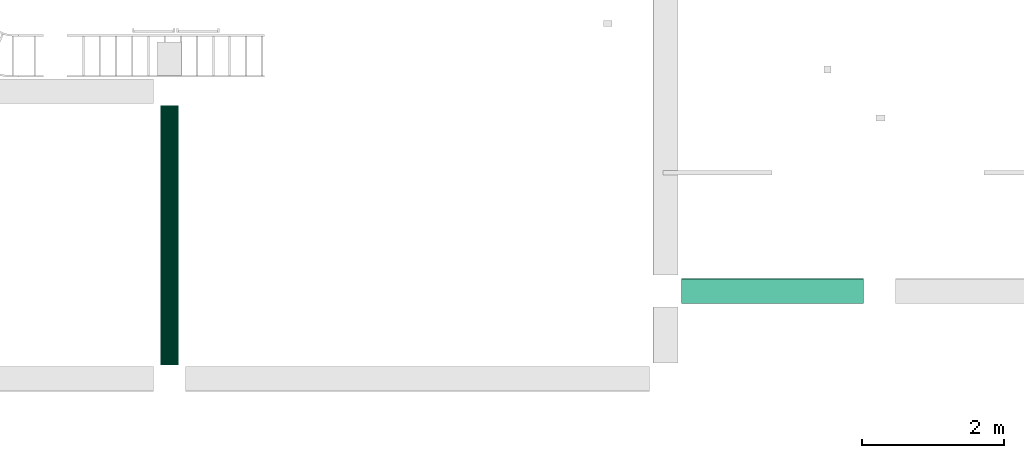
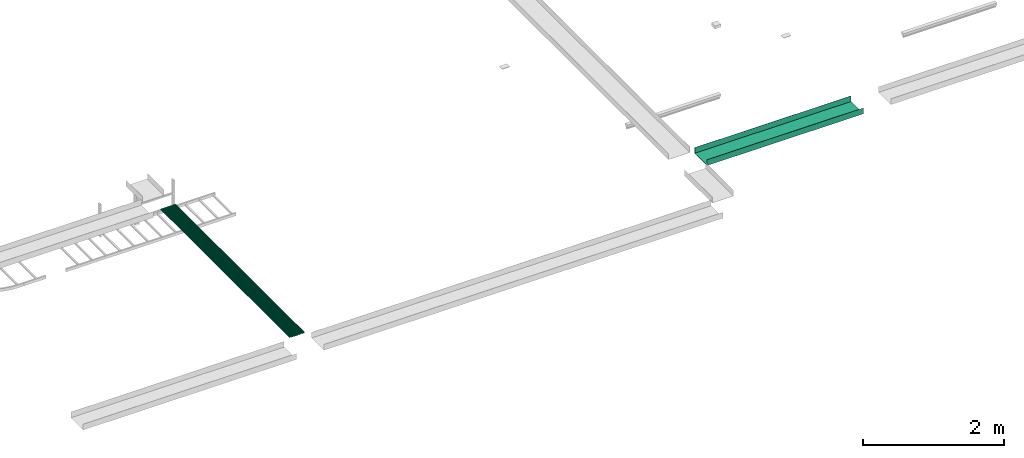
# One storey, part 1 of 14: 11 flow segments.
"""IFC2X3 building model written with IfcOpenShell, lengths in millimetres."""

from ifc_helpers import new_model, entity, si_unit, converted_unit, derived_unit, direction, frame, origin_with_axes, origin_2d_with_axis, place, context, subcontext, project, spatial, hollow_circle, extrude, open_shell, surface_model, source, transform, mapped, type_object, element, save


model = new_model("IFC2X3")

# Units and contexts
model_context = context("Model", 3, precision=0.01, world=frame((0.0, 4.29681676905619e-09, 0.0)), true_north=direction((4.01073788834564e-13, 1.0)))
plan_context = context("Plan", 3, precision=0.01, world=frame((0.0, 4.29681676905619e-09, 0.0)), true_north=direction((4.01073788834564e-13, 1.0)))
body_context = subcontext(model_context, "Body", "Model", "MODEL_VIEW")
ifc_project = project(units=[converted_unit("PLANEANGLEUNIT", "DEGREE", entity("IfcPositiveLengthMeasure", 0.0174532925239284), si_unit("PLANEANGLEUNIT", "RADIAN"), dimensions=[0, 0, 0, 0, 0, 0, 0]), si_unit("AREAUNIT", "SQUARE_METRE"), si_unit("LENGTHUNIT", "METRE", prefix="MILLI"), si_unit("MASSUNIT", "GRAM", prefix="KILO"), si_unit("POWERUNIT", "WATT"), si_unit("PRESSUREUNIT", "PASCAL", prefix="KILO"), si_unit("FORCEUNIT", "NEWTON", prefix="KILO"), si_unit("ELECTRICVOLTAGEUNIT", "VOLT"), si_unit("ELECTRICCURRENTUNIT", "AMPERE"), si_unit("THERMODYNAMICTEMPERATUREUNIT", "DEGREE_CELSIUS"), si_unit("TIMEUNIT", "SECOND"), si_unit("VOLUMEUNIT", "CUBIC_METRE"), derived_unit("LINEARVELOCITYUNIT", [(si_unit("LENGTHUNIT", "METRE"), 1), (si_unit("TIMEUNIT", "SECOND"), -1)]), derived_unit("VOLUMETRICFLOWRATEUNIT", [(si_unit("VOLUMEUNIT", "CUBIC_METRE"), 1), (si_unit("TIMEUNIT", "SECOND"), -1)]), derived_unit("THERMALTRANSMITTANCEUNIT", [(si_unit("POWERUNIT", "WATT"), 1), (si_unit("THERMODYNAMICTEMPERATUREUNIT", "KELVIN"), -1), (si_unit("AREAUNIT", "SQUARE_METRE"), -1)]), derived_unit("SOUNDPRESSUREUNIT", [(si_unit("PRESSUREUNIT", "PASCAL"), 1)])], contexts=[model_context, plan_context])

# Site, building, storey
site_placement = place(None, frame((0.0, -4.29681676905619e-09, 0.0), z_axis=(0.0, 0.0, 1.0), x_axis=(1.0, 0.0, 0.0)))
site = spatial("IfcSite", under=ifc_project, at=site_placement, Name="ENGM", CompositionType="ELEMENT")
building_placement = place(site_placement, frame((0.0, 4.29681676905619e-09, 0.0), z_axis=(0.0, 0.0, 1.0), x_axis=(1.0, 0.0, 0.0)))
building = spatial("IfcBuilding", under=site, at=building_placement, Name="TG", CompositionType="ELEMENT")
storey_placement = place(building_placement, frame((0.0, 0.0, 205200.0), z_axis=(0.0, 0.0, 1.0), x_axis=(1.0, 0.0, 0.0)))
storey = spatial("IfcBuildingStorey", under=building, at=storey_placement, Name="Nivå D + 1,2", CompositionType="ELEMENT", Elevation=205200.0)

# Flow segments
cable_carrier_segment_type_1 = type_object("IfcCableCarrierSegmentType", Name="Conduit", PredefinedType="CONDUITSEGMENT")
shared_shape_1 = source(origin_with_axes(), body_context, "Body", "SweptSolid", [
    extrude(hollow_circle(Radius=12.5, WallThickness=2.0, at=origin_2d_with_axis()), frame((0.0, 0.0, 0.0), z_axis=(1.0, 0.0, 0.0), x_axis=(0.0, 1.0, 0.0)), (0.0, 0.0, 1.0), 3650.0),
])
for number, where, z_axis, x_axis, name in (
    (1, (325622.5, 463447.54, 4970.0), (0.0, 0.0, 1.0), (0.0, -1.0, 0.0), "Conduit"),
    (2, (325597.5, 463447.54, 4970.0), (0.0, 0.0, 1.0), (0.0, -1.0, 0.0), "Conduit"),
    (3, (325572.5, 463447.54, 4970.0), (0.0, 0.0, 1.0), (0.0, -1.0, 0.0), "Conduit"),
    (4, (325547.5, 463447.54, 4970.0), (0.0, 0.0, 1.0), (0.0, -1.0, 0.0), "Conduit"),
    (5, (325522.5, 463447.54, 4970.0), (0.0, 0.0, 1.0), (0.0, -1.0, 0.0), "Conduit"),
    (6, (325497.5, 463447.54, 4970.0), (0.0, 0.0, 1.0), (0.0, -1.0, 0.0), "Conduit"),
    (7, (325472.5, 463447.54, 4970.0), (0.0, 0.0, 1.0), (0.0, -1.0, 0.0), "Conduit"),
    (8, (325447.5, 463447.54, 4970.0), (0.0, 0.0, 1.0), (0.0, -1.0, 0.0), "Conduit"),
    (9, (325422.5, 463447.54, 4970.0), (0.0, 0.0, 1.0), (0.0, -1.0, 0.0), "Conduit"),
    (10, (325397.5, 463447.54, 4970.0), (0.0, 0.0, 1.0), (0.0, -1.0, 0.0), "Conduit"),
):
    element("IfcFlowSegment", number, at=place(storey_placement, frame(where, z_axis=z_axis, x_axis=x_axis)), inside=storey, type_object=cable_carrier_segment_type_1, Name=name, context=body_context, shape_type="MappedRepresentation", body=[
        mapped(shared_shape_1, transform((0.0, 0.0, 0.0), scale=1.0)),
    ])
cable_carrier_segment_type_2 = type_object("IfcCableCarrierSegmentType", Name="Kabelbane", PredefinedType="CABLETRAYSEGMENT")
shared_shape_2 = source(origin_with_axes(), body_context, "Body", "SurfaceModel", [
    surface_model("IfcShellBasedSurfaceModel", [(0.0, -175.0, 50.0), (0.0, -172.46, -47.46), (0.0, -175.0, -50.0), (0.0, 175.0, -50.0), (0.0, -172.46, 50.0), (0.0, 175.0, 50.0), (0.0, 172.46, -47.46), (0.0, 172.46, 50.0), (2560.02513, -175.0, -50.0), (2560.02513, -172.46, -47.46), (2560.02513, -175.0, 50.0), (2560.02513, 175.0, -50.0), (2560.02513, -172.46, 50.0), (2560.02513, 172.46, -47.46), (2560.02513, 175.0, 50.0), (2560.02513, 172.46, 50.0)], [open_shell([[[0, 1, 2]], [[3, 2, 1]], [[1, 0, 4]], [[5, 3, 6]], [[1, 6, 3]], [[6, 7, 5]], [[8, 9, 10]], [[9, 8, 11]], [[12, 10, 9]], [[13, 11, 14]], [[11, 13, 9]], [[14, 15, 13]], [[2, 8, 10]], [[10, 0, 2]], [[0, 10, 12]], [[12, 4, 0]], [[4, 12, 9]], [[9, 1, 4]], [[1, 9, 13]], [[13, 6, 1]], [[6, 13, 15]], [[15, 7, 6]], [[7, 15, 14]], [[14, 5, 7]], [[5, 14, 11]], [[11, 3, 5]], [[3, 11, 8]], [[8, 2, 3]]])]),
])
flow_segment_placement = place(storey_placement, frame((335280.0125, 460835.9875, 4900.0), z_axis=(0.0, 0.0, 1.0), x_axis=(-1.0, 0.0, 0.0)))
element("IfcFlowSegment", 11, at=flow_segment_placement, inside=storey, type_object=cable_carrier_segment_type_2, Name="Kabelbane", context=body_context, shape_type="MappedRepresentation", body=[
    mapped(shared_shape_2, transform((0.0, 0.0, 0.0), scale=1.0)),
])

save(model, "model.ifc")
